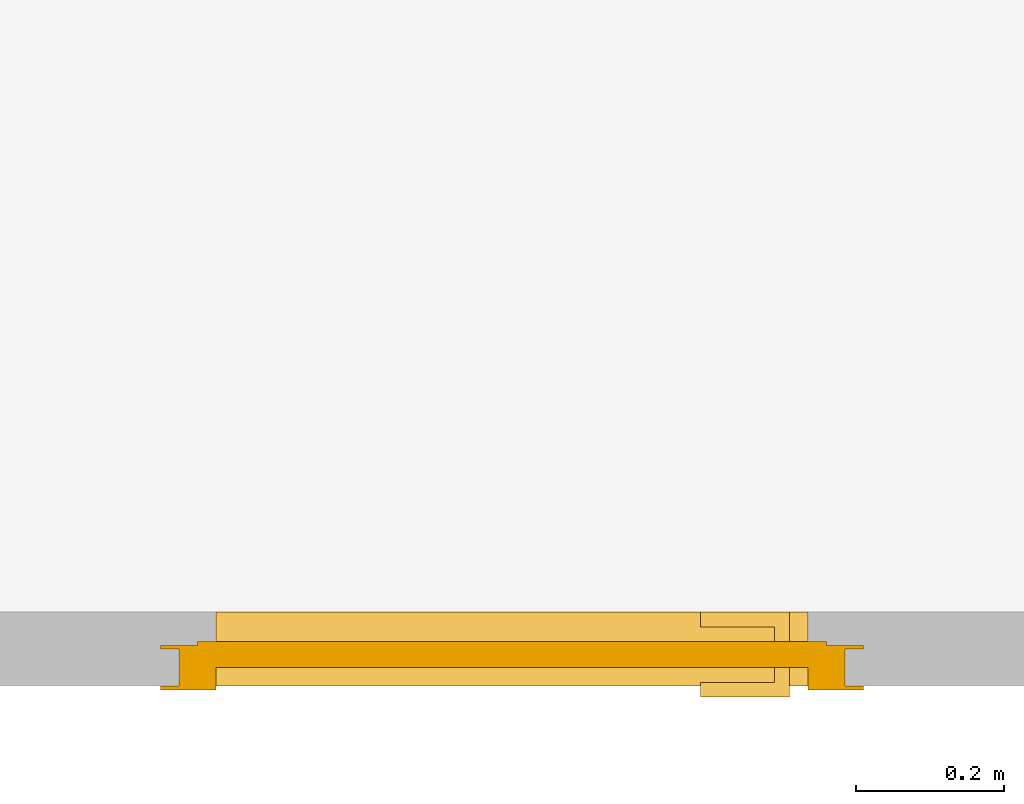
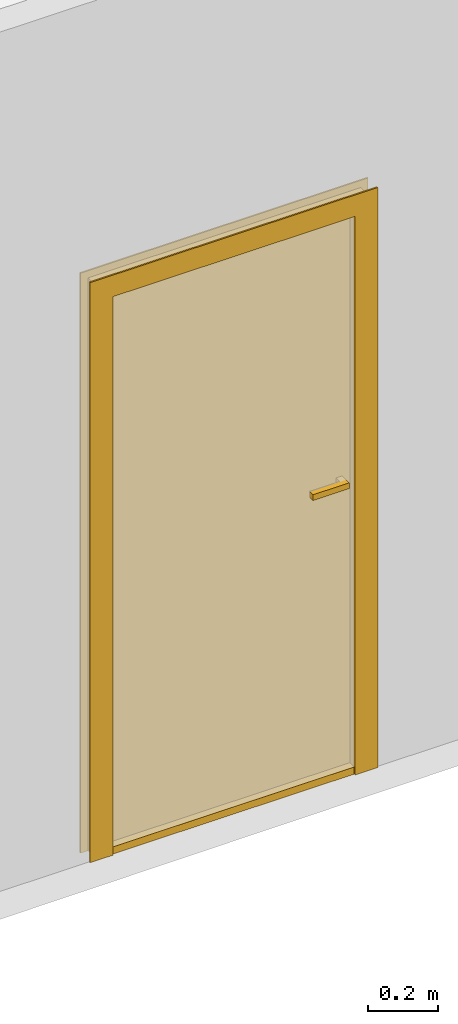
# One storey, part 3 of 4: 1 door.
"""IFC4 building model written with IfcOpenShell, lengths in metres."""

from ifc_helpers import new_model, entity, si_unit, converted_unit, frame, origin_with_axes, origin_2d_with_axis, place, context, subcontext, project, spatial, line, indexed_curve, outline, extrude, shape, source, transform, mapped, type_object, type_shapes, element, save


model = new_model("IFC4")

# Units and contexts
model_context = context("Model", 3, precision=1e-05, world=origin_with_axes())
plan_context = context("Plan", 2, precision=1e-05, world=origin_2d_with_axis())
body_context_1 = subcontext(model_context, "Body", "Model", "MODEL_VIEW")
body_context_2 = subcontext(plan_context, "Body", "Plan", "PLAN_VIEW")
ifc_project = project(units=[si_unit("LENGTHUNIT", "METRE"), converted_unit("PLANEANGLEUNIT", "degree", entity("IfcReal", 0.0174532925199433), si_unit("PLANEANGLEUNIT", "RADIAN"), dimensions=[0, 0, 0, 0, 0, 0, 0]), si_unit("AREAUNIT", "SQUARE_METRE"), si_unit("VOLUMEUNIT", "CUBIC_METRE")], contexts=[model_context, plan_context])

# Site, building, storey
site_placement = place(None, origin_with_axes())
site = spatial("IfcSite", under=ifc_project, at=site_placement, Name="My Site")
building_placement = place(site_placement, origin_with_axes())
building = spatial("IfcBuilding", under=site, at=building_placement, Name="My Building")
storey_placement = place(building_placement, origin_with_axes())
storey = spatial("IfcBuildingStorey", under=building, at=storey_placement, Name="GF")

# Door
door_type = type_object("IfcDoorType", Name="Unnamed", OperationType="SINGLE_SWING_LEFT", PredefinedType="DOOR")
shared_shape_1 = source(origin_with_axes(), body_context_1, "Body", "SweptSolid", [
    extrude(outline(indexed_curve([(0.0, 0.0), (0.0, 2.0), (0.899999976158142, 2.0), (0.899999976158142, 0.0), (0.874999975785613, 0.0), (0.874999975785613, 1.97499999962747), (0.025000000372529, 1.97499999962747), (0.025000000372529, 0.0)], segments=[line(1, 2, 3, 4, 5, 6, 7, 8, 1)])), frame((0.0, 0.025000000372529, 0.0), z_axis=(0.0, -1.0, 0.0), x_axis=(1.0, 0.0, 0.0)), (0.0, 0.0, -1.0), 0.025000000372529),
    extrude(outline(indexed_curve([(0.0, 0.0), (0.0, 2.0), (0.899999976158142, 2.0), (0.899999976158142, 0.0), (0.849999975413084, 0.0), (0.849999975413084, 1.94999999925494), (0.0500000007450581, 1.94999999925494), (0.0500000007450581, 0.0)], segments=[line(1, 2, 3, 4, 5, 6, 7, 8, 1)])), frame((0.0, 0.0, 0.0), z_axis=(0.0, -1.0, 0.0), x_axis=(1.0, 0.0, 0.0)), (0.0, 0.0, -1.0), 0.025000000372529),
    extrude(outline(indexed_curve([(0.0, 0.0), (0.849999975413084, 0.0), (0.849999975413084, 0.0350000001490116), (0.0, 0.0350000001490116)], segments=[line(1, 2, 3, 4, 1)])), frame((0.025000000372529, 0.025000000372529, 0.025000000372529), z_axis=(0.0, 0.0, 1.0), x_axis=(1.0, 0.0, 0.0)), (0.0, 0.0, 1.0), 1.94999999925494),
    extrude(outline(indexed_curve([(0.0, 0.0), (0.0, -0.04), (-0.12, -0.04), (-0.12, -0.02), (-0.02, -0.02), (-0.02, 0.0)], segments=[line(1, 2, 3, 4, 5, 6, 1)])), frame((0.824999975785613, 0.025000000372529, 1.01500000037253), z_axis=(0.0, 0.0, 1.0), x_axis=(1.0, 0.0, 0.0)), (0.0, 0.0, 1.0), 0.02),
    extrude(outline(indexed_curve([(0.0, 0.0), (0.0, 0.04), (-0.12, 0.04), (-0.12, 0.02), (-0.02, 0.02), (-0.02, 0.0)], segments=[line(1, 2, 3, 4, 5, 6, 1)])), frame((0.824999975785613, 0.0600000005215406, 1.01500000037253), z_axis=(0.0, 0.0, 1.0), x_axis=(1.0, 0.0, 0.0)), (0.0, 0.0, 1.0), 0.02),
    extrude(outline(indexed_curve([(0.0, 0.0), (0.799999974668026, 0.0), (0.799999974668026, 0.100000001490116), (0.0, 0.100000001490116)], segments=[line(1, 2, 3, 4, 1)])), frame((0.0500000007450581, 0.0, 0.0), z_axis=(0.0, 0.0, 1.0), x_axis=(1.0, 0.0, 0.0)), (0.0, 0.0, 1.0), 0.025000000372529),
    extrude(outline(indexed_curve([(0.0, 0.0), (0.0, 2.02500000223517), (0.94999998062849, 2.02500000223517), (0.94999998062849, 0.0), (0.874999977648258, 0.0), (0.874999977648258, 1.94999999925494), (0.0750000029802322, 1.94999999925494), (0.0750000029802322, 0.0)], segments=[line(1, 2, 3, 4, 5, 6, 7, 8, 1)])), frame((-0.0250000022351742, -0.00499999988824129, 0.0), z_axis=(0.0, -1.0, 0.0), x_axis=(1.0, 0.0, 0.0)), (0.0, 0.0, -1.0), 0.00499999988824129),
    extrude(outline(indexed_curve([(0.0, 0.0), (0.0, 2.02500000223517), (0.94999998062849, 2.02500000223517), (0.94999998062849, 0.0), (0.899999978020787, 0.0), (0.899999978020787, 1.97499999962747), (0.0500000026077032, 1.97499999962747), (0.0500000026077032, 0.0)], segments=[line(1, 2, 3, 4, 5, 6, 7, 8, 1)])), frame((-0.0250000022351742, 0.0500000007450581, 0.0), z_axis=(0.0, -1.0, 0.0), x_axis=(1.0, 0.0, 0.0)), (0.0, 0.0, -1.0), 0.00499999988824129),
])
shared_shape_2 = source(origin_with_axes(), body_context_2, "Body", "Curve2D", [
    entity("IfcIndexedPolyCurve", entity("IfcCartesianPointList2D", [[0.0, 0.0], [0.0, 0.0500000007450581], [0.025000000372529, 0.0500000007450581], [0.025000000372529, 0.025000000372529], [0.0500000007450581, 0.025000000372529], [0.0500000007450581, 0.0]]), [entity("IfcLineIndex", [1, 2, 3, 4, 5, 6, 1])]),
    entity("IfcIndexedPolyCurve", entity("IfcCartesianPointList2D", [[0.899999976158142, 0.0], [0.899999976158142, 0.0500000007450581], [0.874999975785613, 0.0500000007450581], [0.874999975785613, 0.025000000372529], [0.849999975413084, 0.025000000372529], [0.849999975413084, 0.0]]), [entity("IfcLineIndex", [1, 2, 3, 4, 5, 6, 1])]),
    entity("IfcTrimmedCurve", entity("IfcEllipse", entity("IfcAxis2Placement2D", entity("IfcCartesianPoint", [0.0600000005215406, 0.0500000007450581]), entity("IfcDirection", [1.0, 0.0])), 0.814999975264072, 0.849999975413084), [entity("IfcCartesianPoint", [0.874999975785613, 0.0500000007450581])], [entity("IfcCartesianPoint", [0.0600000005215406, 0.899999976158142])], True, "CARTESIAN"),
    entity("IfcIndexedPolyCurve", entity("IfcCartesianPointList2D", [[0.025000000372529, 0.0500000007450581], [0.0600000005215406, 0.0500000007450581], [0.0600000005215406, 0.899999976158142], [0.025000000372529, 0.899999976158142]]), [entity("IfcLineIndex", [1, 2, 3, 4, 1])]),
])
type_shapes(door_type, [shared_shape_1, shared_shape_2])
placement_1 = place(storey_placement, frame((-3.9340253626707e-07, 0.0, 0.0), z_axis=(0.0, 0.0, 1.0), x_axis=(1.0, 0.0, 0.0)))
placement_2 = place(placement_1, frame((0.917217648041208, 0.0, 0.0), z_axis=(0.0, 0.0, 1.0), x_axis=(1.0, 0.0, 0.0)))
door_placement = place(placement_2, origin_with_axes())
element("IfcDoor", 1, at=door_placement, inside=storey, type_object=door_type, Name="Door", OverallHeight=2.0, OverallWidth=0.899999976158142, shapes=[
    shape(body_context_1, "Body", "MappedRepresentation", [mapped(shared_shape_1, transform((0.0, 0.0, 0.0), x_axis=(1.0, 0.0, 0.0), y_axis=(0.0, 1.0, 0.0), z_axis=(0.0, 0.0, 1.0), scale=1.0))]),
    shape(body_context_2, "Body", "MappedRepresentation", [mapped(shared_shape_2, transform((0.0, 0.0, 0.0), x_axis=(1.0, 0.0, 0.0), y_axis=(0.0, 1.0, 0.0), z_axis=(0.0, 0.0, 1.0), scale=1.0))]),
])

save(model, "model.ifc")
